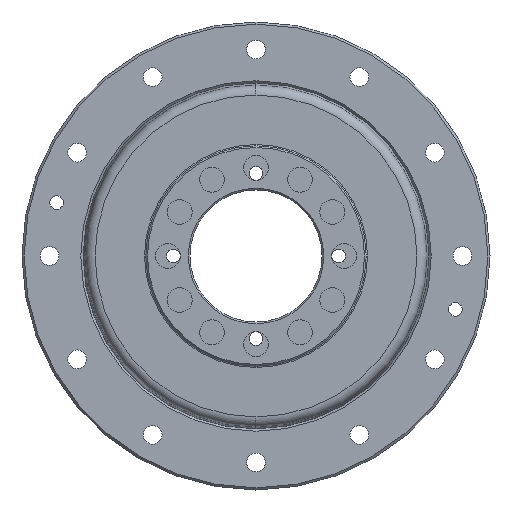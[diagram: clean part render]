
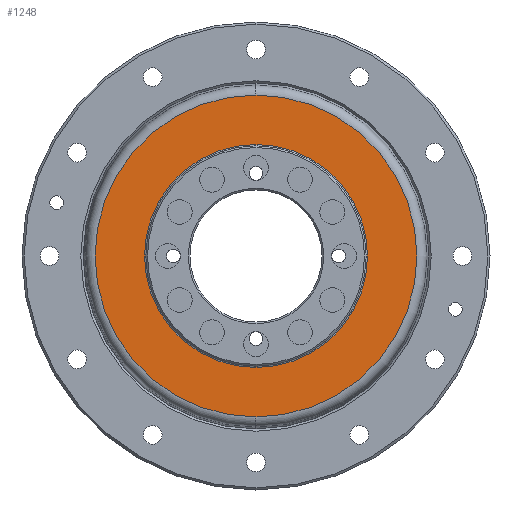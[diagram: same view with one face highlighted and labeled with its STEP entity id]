
A CAD part, left-side view. The second image highlights one B-rep face of the part: STEP entity #1248.
In plain terms, the highlighted planar face has unit normal (-1, 0, 0).
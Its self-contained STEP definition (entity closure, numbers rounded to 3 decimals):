
#470 = AXIS2_PLACEMENT_3D ( 'NONE', #2657, #10666, #3792 ) ;
#1248 = ADVANCED_FACE ( 'NONE', ( #11371, #5619 ), #13090, .F. ) ;
#1535 = CIRCLE ( 'NONE', #3647, 20.25 ) ;
#1723 = CARTESIAN_POINT ( 'NONE',  ( 1.624, 0., -20.25 ) ) ;
#1777 = EDGE_LOOP ( 'NONE', ( #6639, #8573 ) ) ;
#2657 = CARTESIAN_POINT ( 'NONE',  ( 1.624, 0., 0. ) ) ;
#3588 = VERTEX_POINT ( 'NONE', #4952 ) ;
#3647 = AXIS2_PLACEMENT_3D ( 'NONE', #12286, #5421, #13427 ) ;
#3792 = DIRECTION ( 'NONE',  ( 0., 0., 1. ) ) ;
#3812 = CARTESIAN_POINT ( 'NONE',  ( 1.624, 0., -29.23 ) ) ;
#3991 = DIRECTION ( 'NONE',  ( 0., 0., -1. ) ) ;
#4432 = CARTESIAN_POINT ( 'NONE',  ( 1.624, 0., 0. ) ) ;
#4952 = CARTESIAN_POINT ( 'NONE',  ( 1.624, 0., 29.23 ) ) ;
#5158 = VERTEX_POINT ( 'NONE', #1723 ) ;
#5421 = DIRECTION ( 'NONE',  ( -1., 0., 0. ) ) ;
#5576 = DIRECTION ( 'NONE',  ( 0., 0., 1. ) ) ;
#5619 = FACE_OUTER_BOUND ( 'NONE', #9696, .T. ) ;
#5923 = AXIS2_PLACEMENT_3D ( 'NONE', #4432, #12435, #5576 ) ;
#6580 = CARTESIAN_POINT ( 'NONE',  ( 1.624, 0., 0. ) ) ;
#6639 = ORIENTED_EDGE ( 'NONE', *, *, #13303, .F. ) ;
#6684 = ORIENTED_EDGE ( 'NONE', *, *, #10267, .T. ) ;
#6822 = CIRCLE ( 'NONE', #470, 29.23 ) ;
#7001 = AXIS2_PLACEMENT_3D ( 'NONE', #6580, #14584, #7738 ) ;
#7409 = DIRECTION ( 'NONE',  ( 1., 0., 0. ) ) ;
#7738 = DIRECTION ( 'NONE',  ( 0., 0., 1. ) ) ;
#8573 = ORIENTED_EDGE ( 'NONE', *, *, #11247, .F. ) ;
#8762 = AXIS2_PLACEMENT_3D ( 'NONE', #10867, #7409, #3991 ) ;
#9250 = CIRCLE ( 'NONE', #5923, 29.23 ) ;
#9636 = CIRCLE ( 'NONE', #7001, 20.25 ) ;
#9681 = VERTEX_POINT ( 'NONE', #3812 ) ;
#9696 = EDGE_LOOP ( 'NONE', ( #6684, #13853 ) ) ;
#10267 = EDGE_CURVE ( 'NONE', #3588, #9681, #6822, .T. ) ;
#10666 = DIRECTION ( 'NONE',  ( -1., 0., 0. ) ) ;
#10867 = CARTESIAN_POINT ( 'NONE',  ( 1.624, 20.25, 0. ) ) ;
#11247 = EDGE_CURVE ( 'NONE', #5158, #13740, #9636, .T. ) ;
#11371 = FACE_BOUND ( 'NONE', #1777, .T. ) ;
#11583 = CARTESIAN_POINT ( 'NONE',  ( 1.624, 0., 20.25 ) ) ;
#12286 = CARTESIAN_POINT ( 'NONE',  ( 1.624, 0., 0. ) ) ;
#12435 = DIRECTION ( 'NONE',  ( -1., 0., 0. ) ) ;
#13090 = PLANE ( 'NONE',  #8762 ) ;
#13303 = EDGE_CURVE ( 'NONE', #13740, #5158, #1535, .T. ) ;
#13394 = EDGE_CURVE ( 'NONE', #9681, #3588, #9250, .T. ) ;
#13427 = DIRECTION ( 'NONE',  ( 0., 0., 1. ) ) ;
#13740 = VERTEX_POINT ( 'NONE', #11583 ) ;
#13853 = ORIENTED_EDGE ( 'NONE', *, *, #13394, .T. ) ;
#14584 = DIRECTION ( 'NONE',  ( -1., 0., 0. ) ) ;
